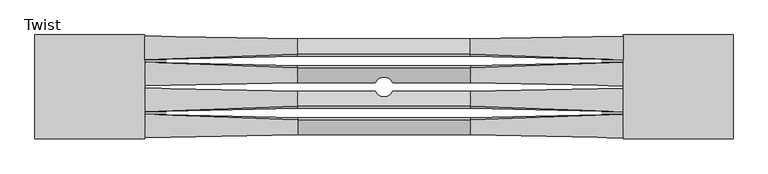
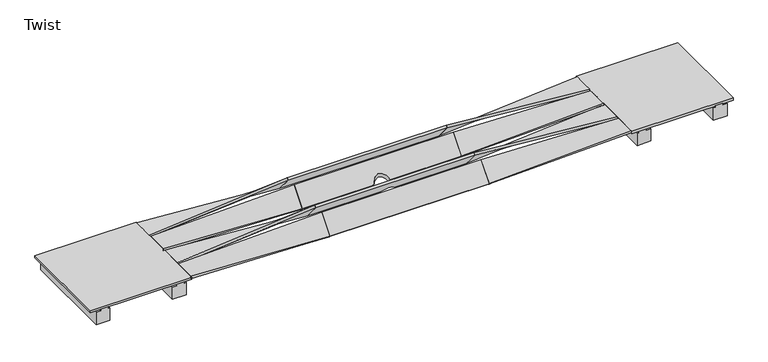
"""IFC4 building model written with IfcOpenShell, lengths in millimetres: proxy geometry, Spinneybeck_Twist : Twist."""

from ifc_helpers import new_model, si_unit, frame, origin, place, context, project, spatial, polyline, ellipse_curve, outline, extrude, source, transform, mapped, element, save
from ifc_brep_helpers import plane_surface, revolved_surface, spline_surface, advanced_brep


def twist_87c8a426(model_context):
    return source(origin(), model_context, "Body", "SolidModel", [
        advanced_brep(
        [(365.125, -17.382359, 38.6415555), (365.125, -82.2331051, 115.9276651), (365.125, -90.6595939, 108.8570014), (365.125, -25.8088479, 31.5708918), (-365.125, -17.382359, 38.6415555), (-365.125, -25.8088479, 31.5708918), (-365.125, -90.6595939, 108.8570014), (-365.125, -82.2331051, 115.9276651), (32.6894118, -25.8088479, 31.5708918), (37.8490141, -17.382359, 38.6415555), (-37.8490141, -17.382359, 38.6415555), (-32.6894118, -25.8088479, 31.5708918)],
        [
            (0, 1),
            (1, 2),
            (2, 3),
            (3, 0),
            (4, 5),
            (5, 6),
            (6, 7),
            (7, 4),
            (3, 8),
            (8, 9, ellipse_curve(frame((0.0, 0.0, 53.2270865), z_axis=(0.0, -0.642787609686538, 0.7660444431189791), x_axis=(0.0, 0.7660444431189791, 0.642787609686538)), 54.3697713, 41.6496612)),
            (9, 0),
            (4, 10),
            (10, 11, ellipse_curve(frame((0.0, 0.0, 53.2270865), z_axis=(0.0, -0.642787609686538, 0.7660444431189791), x_axis=(0.0, 0.7660444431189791, 0.642787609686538)), 54.3697713, 41.6496612)),
            (11, 5),
            (2, 6),
            (11, 8, ellipse_curve(frame((0.0, 0.0, 0.8131046), z_axis=(0.0, 0.7660444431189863, 0.6427876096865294), x_axis=(0.0, -0.6427876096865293, 0.7660444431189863)), 64.7953702, 41.6496612)),
            (1, 7),
            (9, 10, ellipse_curve(frame((0.0, 0.0, 17.9260667), z_axis=(0.0, -0.7660444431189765, -0.6427876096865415), x_axis=(0.0, -0.6427876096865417, 0.7660444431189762)), 64.7953702, 41.6496612)),
        ],
        [
            plane_surface(frame((365.125, -82.2331051, 115.9276651), z_axis=(1.0000000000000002, 0.0, 0.0), x_axis=(0.0, -0.6427876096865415, 0.7660444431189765))),
            plane_surface(frame((-365.125, -82.2331051, 115.9276651), z_axis=(-1.0000000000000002, 0.0, 0.0), x_axis=(0.0, 0.6427876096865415, -0.7660444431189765))),
            plane_surface(frame((365.125, -25.8088479, 31.5708918), z_axis=(0.0, 0.642787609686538, -0.7660444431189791), x_axis=(-1.0, 0.0, 0.0))),
            plane_surface(frame((365.125, -90.6595939, 108.8570014), z_axis=(0.0, -0.7660444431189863, -0.6427876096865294), x_axis=(-1.0, 0.0, 0.0))),
            plane_surface(frame((365.125, -82.2331051, 115.9276651), z_axis=(0.0, -0.6427876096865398, 0.7660444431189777), x_axis=(-1.0, 0.0, 0.0))),
            plane_surface(frame((365.125, -17.382359, 38.6415555), z_axis=(0.0, 0.7660444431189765, 0.6427876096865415), x_axis=(-1.0, 0.0, 0.0))),
            revolved_surface(polyline([(41.6496612, 0.0, 88.17530183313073), (41.6496612, 0.0, -48.823028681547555)]), (0.0, 0.0, 0.0), (0.0, 0.0, 1.0)),
        ],
        [
            (0, [[1, 2, 3, 4]]),
            (1, [[5, 6, 7, 8]]),
            (2, [[-4, 9, 10, 11]]),
            (2, [[-5, 12, 13, 14]]),
            (3, [[-3, 15, -6, -14, 16, -9]]),
            (4, [[-2, 17, -7, -15]]),
            (5, [[-1, -11, 18, -12, -8, -17]]),
            (6, [[-13, -18, -10, -16]]),
        ],
    ),
        advanced_brep(
        [(365.125, 17.182359, 38.6415555), (365.125, 25.6088479, 31.5708918), (365.125, 90.4595939, 108.8570014), (365.125, 82.0331051, 115.9276651), (-365.125, 17.182359, 38.6415555), (-365.125, 82.0331051, 115.9276651), (-365.125, 90.4595939, 108.8570014), (-365.125, 25.6088479, 31.5708918), (37.9402269, 17.182359, 38.6415555), (32.8463268, 25.6088479, 31.5708918), (-32.8463268, 25.6088479, 31.5708918), (-37.9402269, 17.182359, 38.6415555)],
        [
            (0, 1),
            (1, 2),
            (2, 3),
            (3, 0),
            (4, 5),
            (5, 6),
            (6, 7),
            (7, 4),
            (0, 8),
            (8, 9, ellipse_curve(frame((0.0, 0.0, 53.0592666), z_axis=(0.0, 0.6427876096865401, 0.7660444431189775), x_axis=(0.0, -0.7660444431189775, 0.6427876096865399)), 54.3697713, 41.6496612)),
            (9, 1),
            (7, 10),
            (10, 11, ellipse_curve(frame((0.0, 0.0, 53.0592666), z_axis=(0.0, 0.6427876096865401, 0.7660444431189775), x_axis=(0.0, -0.7660444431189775, 0.6427876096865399)), 54.3697713, 41.6496612)),
            (11, 4),
            (9, 10, ellipse_curve(frame((0.0, 0.0, 1.0514553), z_axis=(0.0, -0.7660444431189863, 0.6427876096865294), x_axis=(0.0, 0.6427876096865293, 0.7660444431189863)), 64.7953702, 41.6496612)),
            (6, 2),
            (5, 3),
            (11, 8, ellipse_curve(frame((0.0, 0.0, 18.1644174), z_axis=(0.0, 0.7660444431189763, -0.6427876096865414), x_axis=(0.0, 0.6427876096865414, 0.7660444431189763)), 64.7953702, 41.6496612)),
        ],
        [
            plane_surface(frame((365.125, 17.182359, 38.6415555), z_axis=(1.0, 0.0, 0.0), x_axis=(0.0, 0.7660444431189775, -0.6427876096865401))),
            plane_surface(frame((-365.125, 17.182359, 38.6415555), z_axis=(-1.0, 0.0, 0.0), x_axis=(0.0, -0.7660444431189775, 0.6427876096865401))),
            plane_surface(frame((365.125, 17.182359, 38.6415555), z_axis=(0.0, -0.6427876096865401, -0.7660444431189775), x_axis=(-1.0, 0.0, 0.0))),
            plane_surface(frame((365.125, 25.6088479, 31.5708918), z_axis=(0.0, 0.7660444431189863, -0.6427876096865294), x_axis=(-1.0, 0.0, 0.0))),
            plane_surface(frame((365.125, 90.4595939, 108.8570014), z_axis=(0.0, 0.6427876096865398, 0.7660444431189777), x_axis=(-1.0, 0.0, 0.0))),
            plane_surface(frame((365.125, 82.0331051, 115.9276651), z_axis=(0.0, -0.7660444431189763, 0.6427876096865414), x_axis=(-1.0, 0.0, 0.0))),
            revolved_surface(polyline([(41.6496612, 0.0, 88.00748193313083), (41.6496612, 0.0, -48.58467798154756)]), (0.0, 0.0, 0.0), (0.0, 0.0, 1.0)),
        ],
        [
            (0, [[1, 2, 3, 4]]),
            (1, [[5, 6, 7, 8]]),
            (2, [[-1, 9, 10, 11]]),
            (2, [[-8, 12, 13, 14]]),
            (3, [[-2, -11, 15, -12, -7, 16]]),
            (4, [[-3, -16, -6, 17]]),
            (5, [[-4, -17, -5, -14, 18, -9]]),
            (6, [[-13, -15, -10, -18]]),
        ],
    ),
        extrude(outline(polyline([(0.0, -1447.8), (0.0, -1384.3), (60.325, -1384.3), (60.325, -1392.2375), (66.675, -1392.2375), (66.675, -1427.1625), (60.325, -1427.1625), (60.325, -1447.8), (0.0, -1447.8)])), frame((0.0, -219.86875, 0.0), z_axis=(0.0, 1.0, 0.0), x_axis=(0.0, 0.0, 1.0)), (0.0, 0.0, 1.0), 439.7375),
        extrude(outline(polyline([(0.0, 1384.3), (0.0, 1447.8), (60.325, 1447.8), (60.325, 1427.1625), (66.675, 1427.1625), (66.675, 1392.2375), (60.325, 1392.2375), (60.325, 1384.3), (0.0, 1384.3)])), frame((0.0, -219.86875, 0.0), z_axis=(0.0, 1.0, 0.0), x_axis=(0.0, 0.0, 1.0)), (0.0, 0.0, 1.0), 439.7375),
        advanced_brep(
        [(365.125, 137.9668949, 115.9276651), (365.125, 202.817641, 38.6415555), (365.125, 194.3911521, 31.5708918), (365.125, 129.5404061, 108.8570014), (1010.065671, 115.2, 77.675), (1010.065671, 115.2, 66.675), (1010.065671, 215.2, 66.675), (1010.065671, 215.2, 77.675)],
        [
            (0, 1),
            (1, 2),
            (2, 3),
            (3, 0),
            (4, 5),
            (5, 6),
            (6, 7),
            (7, 4),
            (4, 0),
            (3, 5),
            (2, 6),
            (1, 7),
        ],
        [
            plane_surface(frame((365.125, 166.1790235, 73.7492785), z_axis=(-1.0, 0.0, 0.0), x_axis=(0.0, 0.7660444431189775, 0.64278760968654))),
            plane_surface(frame((1010.065671, 165.2, 72.175), z_axis=(1.0, 0.0, 0.0), x_axis=(0.0, 0.7660444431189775, 0.64278760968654))),
            spline_surface(1, 1, [[(1010.065671, 115.2, 66.675), (365.125, 129.5404061, 108.8570014)], [(1010.065671, 115.2, 77.675), (365.125, 137.9668949, 115.9276651)]], [2, 2], [2, 2], [0.0, 1.0], [0.0, 1.0]),
            spline_surface(1, 1, [[(1010.065671, 215.2, 66.675), (365.125, 194.3911521, 31.5708918)], [(1010.065671, 115.2, 66.675), (365.125, 129.5404061, 108.8570014)]], [2, 2], [2, 2], [0.0, 1.0], [0.0, 1.0]),
            spline_surface(1, 1, [[(1010.065671, 215.2, 77.675), (365.125, 202.817641, 38.6415555)], [(1010.065671, 215.2, 66.675), (365.125, 194.3911521, 31.5708918)]], [2, 2], [2, 2], [0.0, 1.0], [0.0, 1.0]),
            spline_surface(1, 1, [[(1010.065671, 115.2, 77.675), (365.125, 137.9668949, 115.9276651)], [(1010.065671, 215.2, 77.675), (365.125, 202.817641, 38.6415555)]], [2, 2], [2, 2], [0.0, 1.0], [0.0, 1.0]),
        ],
        [
            (0, [[1, 2, 3, 4]]),
            (1, [[5, 6, 7, 8]]),
            (2, [[-5, 9, -4, 10]]),
            (3, [[-6, -10, -3, 11]]),
            (4, [[-7, -11, -2, 12]]),
            (5, [[-8, -12, -1, -9]]),
        ],
    ),
        extrude(outline(polyline([(0.0, -11.0), (0.0, 0.0), (730.25, 0.0), (730.25, -11.0), (0.0, -11.0)])), frame((365.125, 194.3911521, 31.5708918), z_axis=(0.0, -0.6427876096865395, 0.766044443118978), x_axis=(-1.0, 0.0, 0.0)), (0.0, 0.0, 1.0), 100.8898509),
        advanced_brep(
        [(-365.125, 137.9668949, 115.9276651), (-365.125, 129.5404061, 108.8570014), (-365.125, 194.3911521, 31.5708918), (-365.125, 202.817641, 38.6415555), (-1010.065671, 115.2, 77.675), (-1010.065671, 215.2, 77.675), (-1010.065671, 215.2, 66.675), (-1010.065671, 115.2, 66.675)],
        [
            (0, 1),
            (1, 2),
            (2, 3),
            (3, 0),
            (4, 5),
            (5, 6),
            (6, 7),
            (7, 4),
            (7, 1),
            (0, 4),
            (6, 2),
            (5, 3),
        ],
        [
            plane_surface(frame((-365.125, 166.1790235, 73.7492785), z_axis=(1.0, 0.0, 0.0), x_axis=(0.0, 0.7660444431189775, 0.64278760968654))),
            plane_surface(frame((-1010.065671, 165.2, 72.175), z_axis=(-1.0, 0.0, 0.0), x_axis=(0.0, 0.7660444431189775, 0.64278760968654))),
            spline_surface(1, 1, [[(-1010.065671, 115.2, 77.675), (-365.125, 137.9668949, 115.9276651)], [(-1010.065671, 115.2, 66.675), (-365.125, 129.5404061, 108.8570014)]], [2, 2], [2, 2], [0.0, 1.0], [0.0, 1.0]),
            spline_surface(1, 1, [[(-1010.065671, 115.2, 66.675), (-365.125, 129.5404061, 108.8570014)], [(-1010.065671, 215.2, 66.675), (-365.125, 194.3911521, 31.5708918)]], [2, 2], [2, 2], [0.0, 1.0], [0.0, 1.0]),
            spline_surface(1, 1, [[(-1010.065671, 215.2, 66.675), (-365.125, 194.3911521, 31.5708918)], [(-1010.065671, 215.2, 77.675), (-365.125, 202.817641, 38.6415555)]], [2, 2], [2, 2], [0.0, 1.0], [0.0, 1.0]),
            spline_surface(1, 1, [[(-1010.065671, 215.2, 77.675), (-365.125, 202.817641, 38.6415555)], [(-1010.065671, 115.2, 77.675), (-365.125, 137.9668949, 115.9276651)]], [2, 2], [2, 2], [0.0, 1.0], [0.0, 1.0]),
        ],
        [
            (0, [[1, 2, 3, 4]]),
            (1, [[5, 6, 7, 8]]),
            (2, [[-8, 9, -1, 10]]),
            (3, [[-7, 11, -2, -9]]),
            (4, [[-6, 12, -3, -11]]),
            (5, [[-5, -10, -4, -12]]),
        ],
    ),
        extrude(outline(polyline([(-1010.065671, -219.86875), (-1474.7875, -219.86875), (-1474.7875, 219.86875), (-1010.065671, 219.86875), (-1010.065671, -219.86875)])), frame((0.0, 0.0, 66.675), z_axis=(0.0, 0.0, 1.0), x_axis=(1.0, 0.0, 0.0)), (0.0, 0.0, 1.0), 11.0),
        extrude(outline(polyline([(1010.065671, -219.86875), (1010.065671, 219.86875), (1474.7875, 219.86875), (1474.7875, -219.86875), (1010.065671, -219.86875)])), frame((0.0, 0.0, 66.675), z_axis=(0.0, 0.0, 1.0), x_axis=(1.0, 0.0, 0.0)), (0.0, 0.0, 1.0), 11.0),
        advanced_brep(
        [(-365.125, -202.817641, 38.6415555), (-365.125, -194.3911521, 31.5708918), (-365.125, -129.5404061, 108.8570014), (-365.125, -137.9668949, 115.9276651), (-1010.065671, -215.0, 77.675), (-1010.065671, -115.0, 77.675), (-1010.065671, -115.0, 66.675), (-1010.065671, -215.0, 66.675)],
        [
            (0, 1),
            (1, 2),
            (2, 3),
            (3, 0),
            (4, 5),
            (5, 6),
            (6, 7),
            (7, 4),
            (7, 1),
            (0, 4),
            (6, 2),
            (5, 3),
        ],
        [
            plane_surface(frame((-365.125, -166.1790235, 73.7492785), z_axis=(1.0, 0.0, 0.0), x_axis=(0.0, -0.7660444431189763, 0.6427876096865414))),
            plane_surface(frame((-1010.065671, -165.0, 72.175), z_axis=(-1.0, 0.0, 0.0), x_axis=(0.0, -0.7660444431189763, 0.6427876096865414))),
            spline_surface(1, 1, [[(-1010.065671, -215.0, 77.675), (-365.125, -202.817641, 38.6415555)], [(-1010.065671, -215.0, 66.675), (-365.125, -194.3911521, 31.5708918)]], [2, 2], [2, 2], [0.0, 1.0], [0.0, 1.0]),
            spline_surface(1, 1, [[(-1010.065671, -215.0, 66.675), (-365.125, -194.3911521, 31.5708918)], [(-1010.065671, -115.0, 66.675), (-365.125, -129.5404061, 108.8570014)]], [2, 2], [2, 2], [0.0, 1.0], [0.0, 1.0]),
            spline_surface(1, 1, [[(-1010.065671, -115.0, 66.675), (-365.125, -129.5404061, 108.8570014)], [(-1010.065671, -115.0, 77.675), (-365.125, -137.9668949, 115.9276651)]], [2, 2], [2, 2], [0.0, 1.0], [0.0, 1.0]),
            spline_surface(1, 1, [[(-1010.065671, -115.0, 77.675), (-365.125, -137.9668949, 115.9276651)], [(-1010.065671, -215.0, 77.675), (-365.125, -202.817641, 38.6415555)]], [2, 2], [2, 2], [0.0, 1.0], [0.0, 1.0]),
        ],
        [
            (0, [[1, 2, 3, 4]]),
            (1, [[5, 6, 7, 8]]),
            (2, [[-8, 9, -1, 10]]),
            (3, [[-7, 11, -2, -9]]),
            (4, [[-6, 12, -3, -11]]),
            (5, [[-5, -10, -4, -12]]),
        ],
    ),
        extrude(outline(polyline([(0.0, -11.0), (0.0, 0.0), (730.25, 0.0), (730.25, -11.0), (0.0, -11.0)])), frame((365.125, -202.817641, 38.6415555), z_axis=(0.0, 0.6427876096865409, 0.7660444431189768), x_axis=(-1.0, 0.0, 0.0)), (0.0, 0.0, 1.0), 100.8898509),
        advanced_brep(
        [(365.125, -202.817641, 38.6415555), (365.125, -137.9668949, 115.9276651), (365.125, -129.5404061, 108.8570014), (365.125, -194.3911521, 31.5708918), (1010.065671, -215.0, 77.675), (1010.065671, -215.0, 66.675), (1010.065671, -115.0, 66.675), (1010.065671, -115.0, 77.675)],
        [
            (0, 1),
            (1, 2),
            (2, 3),
            (3, 0),
            (4, 5),
            (5, 6),
            (6, 7),
            (7, 4),
            (4, 0),
            (3, 5),
            (2, 6),
            (1, 7),
        ],
        [
            plane_surface(frame((365.125, -166.1790235, 73.7492785), z_axis=(-1.0, 0.0, 0.0), x_axis=(0.0, -0.7660444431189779, 0.6427876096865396))),
            plane_surface(frame((1010.065671, -165.0, 72.175), z_axis=(1.0, 0.0, 0.0), x_axis=(0.0, -0.7660444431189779, 0.6427876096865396))),
            spline_surface(1, 1, [[(1010.065671, -215.0, 66.675), (365.125, -194.3911521, 31.5708918)], [(1010.065671, -215.0, 77.675), (365.125, -202.817641, 38.6415555)]], [2, 2], [2, 2], [0.0, 1.0], [0.0, 1.0]),
            spline_surface(1, 1, [[(1010.065671, -115.0, 66.675), (365.125, -129.5404061, 108.8570014)], [(1010.065671, -215.0, 66.675), (365.125, -194.3911521, 31.5708918)]], [2, 2], [2, 2], [0.0, 1.0], [0.0, 1.0]),
            spline_surface(1, 1, [[(1010.065671, -115.0, 77.675), (365.125, -137.9668949, 115.9276651)], [(1010.065671, -115.0, 66.675), (365.125, -129.5404061, 108.8570014)]], [2, 2], [2, 2], [0.0, 1.0], [0.0, 1.0]),
            spline_surface(1, 1, [[(1010.065671, -215.0, 77.675), (365.125, -202.817641, 38.6415555)], [(1010.065671, -115.0, 77.675), (365.125, -137.9668949, 115.9276651)]], [2, 2], [2, 2], [0.0, 1.0], [0.0, 1.0]),
        ],
        [
            (0, [[1, 2, 3, 4]]),
            (1, [[5, 6, 7, 8]]),
            (2, [[-5, 9, -4, 10]]),
            (3, [[-6, -10, -3, 11]]),
            (4, [[-7, -11, -2, 12]]),
            (5, [[-8, -12, -1, -9]]),
        ],
    ),
        advanced_brep(
        [(365.125, -82.2331051, 115.9276651), (365.125, -17.382359, 38.6415555), (365.125, -25.8088479, 31.5708918), (365.125, -90.6595939, 108.8570014), (1010.065671, -105.0, 77.675), (1010.065671, -105.0, 66.675), (1010.065671, -5.0, 66.675), (1010.065671, -5.0, 77.675)],
        [
            (0, 1),
            (1, 2),
            (2, 3),
            (3, 0),
            (4, 5),
            (5, 6),
            (6, 7),
            (7, 4),
            (4, 0),
            (3, 5),
            (2, 6),
            (1, 7),
        ],
        [
            plane_surface(frame((365.125, -54.0209765, 73.7492785), z_axis=(-1.0000000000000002, 0.0, 0.0), x_axis=(0.0, 0.7660444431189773, 0.6427876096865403))),
            plane_surface(frame((1010.065671, -55.0, 72.175), z_axis=(1.0000000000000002, 0.0, 0.0), x_axis=(0.0, 0.7660444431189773, 0.6427876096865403))),
            spline_surface(1, 1, [[(1010.065671, -105.0, 66.675), (365.125, -90.6595939, 108.8570014)], [(1010.065671, -105.0, 77.675), (365.125, -82.2331051, 115.9276651)]], [2, 2], [2, 2], [0.0, 1.0], [0.0, 1.0]),
            spline_surface(1, 1, [[(1010.065671, -5.0, 66.675), (365.125, -25.8088479, 31.5708918)], [(1010.065671, -105.0, 66.675), (365.125, -90.6595939, 108.8570014)]], [2, 2], [2, 2], [0.0, 1.0], [0.0, 1.0]),
            spline_surface(1, 1, [[(1010.065671, -5.0, 77.675), (365.125, -17.382359, 38.6415555)], [(1010.065671, -5.0, 66.675), (365.125, -25.8088479, 31.5708918)]], [2, 2], [2, 2], [0.0, 1.0], [0.0, 1.0]),
            spline_surface(1, 1, [[(1010.065671, -105.0, 77.675), (365.125, -82.2331051, 115.9276651)], [(1010.065671, -5.0, 77.675), (365.125, -17.382359, 38.6415555)]], [2, 2], [2, 2], [0.0, 1.0], [0.0, 1.0]),
        ],
        [
            (0, [[1, 2, 3, 4]]),
            (1, [[5, 6, 7, 8]]),
            (2, [[-5, 9, -4, 10]]),
            (3, [[-6, -10, -3, 11]]),
            (4, [[-7, -11, -2, 12]]),
            (5, [[-8, -12, -1, -9]]),
        ],
    ),
        advanced_brep(
        [(-365.125, -82.2331051, 115.9276651), (-365.125, -90.6595939, 108.8570014), (-365.125, -25.8088479, 31.5708918), (-365.125, -17.382359, 38.6415555), (-1010.065671, -105.0, 77.675), (-1010.065671, -5.0, 77.675), (-1010.065671, -5.0, 66.675), (-1010.065671, -105.0, 66.675)],
        [
            (0, 1),
            (1, 2),
            (2, 3),
            (3, 0),
            (4, 5),
            (5, 6),
            (6, 7),
            (7, 4),
            (7, 1),
            (0, 4),
            (6, 2),
            (5, 3),
        ],
        [
            plane_surface(frame((-365.125, -54.0209765, 73.7492785), z_axis=(1.0000000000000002, 0.0, 0.0), x_axis=(0.0, 0.7660444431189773, 0.6427876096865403))),
            plane_surface(frame((-1010.065671, -55.0, 72.175), z_axis=(-1.0000000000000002, 0.0, 0.0), x_axis=(0.0, 0.7660444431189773, 0.6427876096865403))),
            spline_surface(1, 1, [[(-1010.065671, -105.0, 77.675), (-365.125, -82.2331051, 115.9276651)], [(-1010.065671, -105.0, 66.675), (-365.125, -90.6595939, 108.8570014)]], [2, 2], [2, 2], [0.0, 1.0], [0.0, 1.0]),
            spline_surface(1, 1, [[(-1010.065671, -105.0, 66.675), (-365.125, -90.6595939, 108.8570014)], [(-1010.065671, -5.0, 66.675), (-365.125, -25.8088479, 31.5708918)]], [2, 2], [2, 2], [0.0, 1.0], [0.0, 1.0]),
            spline_surface(1, 1, [[(-1010.065671, -5.0, 66.675), (-365.125, -25.8088479, 31.5708918)], [(-1010.065671, -5.0, 77.675), (-365.125, -17.382359, 38.6415555)]], [2, 2], [2, 2], [0.0, 1.0], [0.0, 1.0]),
            spline_surface(1, 1, [[(-1010.065671, -5.0, 77.675), (-365.125, -17.382359, 38.6415555)], [(-1010.065671, -105.0, 77.675), (-365.125, -82.2331051, 115.9276651)]], [2, 2], [2, 2], [0.0, 1.0], [0.0, 1.0]),
        ],
        [
            (0, [[1, 2, 3, 4]]),
            (1, [[5, 6, 7, 8]]),
            (2, [[-8, 9, -1, 10]]),
            (3, [[-7, 11, -2, -9]]),
            (4, [[-6, 12, -3, -11]]),
            (5, [[-5, -10, -4, -12]]),
        ],
    ),
        advanced_brep(
        [(-365.125, 17.182359, 38.6415555), (-365.125, 25.6088479, 31.5708918), (-365.125, 90.4595939, 108.8570014), (-365.125, 82.0331051, 115.9276651), (-1010.065671, 5.0, 77.675), (-1010.065671, 105.0, 77.675), (-1010.065671, 105.0, 66.675), (-1010.065671, 5.0, 66.675)],
        [
            (0, 1),
            (1, 2),
            (2, 3),
            (3, 0),
            (4, 5),
            (5, 6),
            (6, 7),
            (7, 4),
            (7, 1),
            (0, 4),
            (6, 2),
            (5, 3),
        ],
        [
            plane_surface(frame((-365.125, 53.8209765, 73.7492785), z_axis=(1.0, 0.0, 0.0), x_axis=(0.0, -0.7660444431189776, 0.6427876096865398))),
            plane_surface(frame((-1010.065671, 55.0, 72.175), z_axis=(-1.0, 0.0, 0.0), x_axis=(0.0, -0.7660444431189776, 0.6427876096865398))),
            spline_surface(1, 1, [[(-1010.065671, 5.0, 77.675), (-365.125, 17.182359, 38.6415555)], [(-1010.065671, 5.0, 66.675), (-365.125, 25.6088479, 31.5708918)]], [2, 2], [2, 2], [0.0, 1.0], [0.0, 1.0]),
            spline_surface(1, 1, [[(-1010.065671, 5.0, 66.675), (-365.125, 25.6088479, 31.5708918)], [(-1010.065671, 105.0, 66.675), (-365.125, 90.4595939, 108.8570014)]], [2, 2], [2, 2], [0.0, 1.0], [0.0, 1.0]),
            spline_surface(1, 1, [[(-1010.065671, 105.0, 66.675), (-365.125, 90.4595939, 108.8570014)], [(-1010.065671, 105.0, 77.675), (-365.125, 82.0331051, 115.9276651)]], [2, 2], [2, 2], [0.0, 1.0], [0.0, 1.0]),
            spline_surface(1, 1, [[(-1010.065671, 105.0, 77.675), (-365.125, 82.0331051, 115.9276651)], [(-1010.065671, 5.0, 77.675), (-365.125, 17.182359, 38.6415555)]], [2, 2], [2, 2], [0.0, 1.0], [0.0, 1.0]),
        ],
        [
            (0, [[1, 2, 3, 4]]),
            (1, [[5, 6, 7, 8]]),
            (2, [[-8, 9, -1, 10]]),
            (3, [[-7, 11, -2, -9]]),
            (4, [[-6, 12, -3, -11]]),
            (5, [[-5, -10, -4, -12]]),
        ],
    ),
        advanced_brep(
        [(365.125, 17.182359, 38.6415555), (365.125, 82.0331051, 115.9276651), (365.125, 90.4595939, 108.8570014), (365.125, 25.6088479, 31.5708918), (1010.065671, 5.0, 77.675), (1010.065671, 5.0, 66.675), (1010.065671, 105.0, 66.675), (1010.065671, 105.0, 77.675)],
        [
            (0, 1),
            (1, 2),
            (2, 3),
            (3, 0),
            (4, 5),
            (5, 6),
            (6, 7),
            (7, 4),
            (4, 0),
            (3, 5),
            (2, 6),
            (1, 7),
        ],
        [
            plane_surface(frame((365.125, 53.8209765, 73.7492785), z_axis=(-1.0, 0.0, 0.0), x_axis=(0.0, -0.7660444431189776, 0.6427876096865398))),
            plane_surface(frame((1010.065671, 55.0, 72.175), z_axis=(1.0, 0.0, 0.0), x_axis=(0.0, -0.7660444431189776, 0.6427876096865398))),
            spline_surface(1, 1, [[(1010.065671, 5.0, 66.675), (365.125, 25.6088479, 31.5708918)], [(1010.065671, 5.0, 77.675), (365.125, 17.182359, 38.6415555)]], [2, 2], [2, 2], [0.0, 1.0], [0.0, 1.0]),
            spline_surface(1, 1, [[(1010.065671, 105.0, 66.675), (365.125, 90.4595939, 108.8570014)], [(1010.065671, 5.0, 66.675), (365.125, 25.6088479, 31.5708918)]], [2, 2], [2, 2], [0.0, 1.0], [0.0, 1.0]),
            spline_surface(1, 1, [[(1010.065671, 105.0, 77.675), (365.125, 82.0331051, 115.9276651)], [(1010.065671, 105.0, 66.675), (365.125, 90.4595939, 108.8570014)]], [2, 2], [2, 2], [0.0, 1.0], [0.0, 1.0]),
            spline_surface(1, 1, [[(1010.065671, 5.0, 77.675), (365.125, 17.182359, 38.6415555)], [(1010.065671, 105.0, 77.675), (365.125, 82.0331051, 115.9276651)]], [2, 2], [2, 2], [0.0, 1.0], [0.0, 1.0]),
        ],
        [
            (0, [[1, 2, 3, 4]]),
            (1, [[5, 6, 7, 8]]),
            (2, [[-5, 9, -4, 10]]),
            (3, [[-6, -10, -3, 11]]),
            (4, [[-7, -11, -2, 12]]),
            (5, [[-8, -12, -1, -9]]),
        ],
    ),
        extrude(outline(polyline([(0.0, -1098.015371), (0.0, -1034.515371), (60.325, -1034.515371), (60.325, -1042.452871), (66.675, -1042.452871), (66.675, -1077.377871), (60.325, -1077.377871), (60.325, -1098.015371), (0.0, -1098.015371)])), frame((0.0, -219.86875, 0.0), z_axis=(0.0, 1.0, 0.0), x_axis=(0.0, 0.0, 1.0)), (0.0, 0.0, 1.0), 439.7375),
        extrude(outline(polyline([(0.0, 1034.515371), (0.0, 1098.015371), (60.325, 1098.015371), (60.325, 1077.377871), (66.675, 1077.377871), (66.675, 1042.452871), (60.325, 1042.452871), (60.325, 1034.515371), (0.0, 1034.515371)])), frame((0.0, -219.86875, 0.0), z_axis=(0.0, 1.0, 0.0), x_axis=(0.0, 0.0, 1.0)), (0.0, 0.0, 1.0), 439.7375),
    ])


if __name__ == "__main__":
    model = new_model("IFC4")
    model_context = context("Model", 3, world=origin())
    ifc_project = project(units=[si_unit("LENGTHUNIT", "METRE", prefix="MILLI")], contexts=[model_context])
    site = spatial("IfcSite", under=ifc_project)
    building = spatial("IfcBuilding", under=site)
    placement = place(None, origin())
    twist_shape = twist_87c8a426(model_context)
    element("IfcBuildingElementProxy", 1, Name="Spinneybeck_Twist : Twist", ObjectType="Spinneybeck_Twist : Twist", at=placement, inside=building, context=model_context, shape_type="MappedRepresentation", body=[
        mapped(twist_shape, transform((0.0, 0.0, 0.0), x_axis=(1.0, 0.0, 0.0), y_axis=(0.0, 1.0, 0.0), z_axis=(0.0, 0.0, 1.0))),
    ])
    save(model, "model.ifc")
